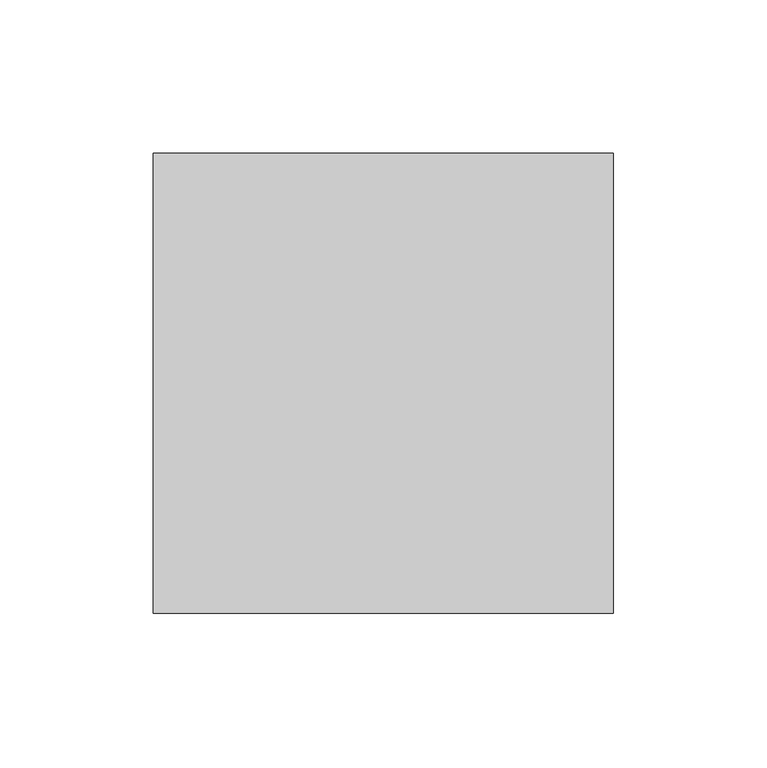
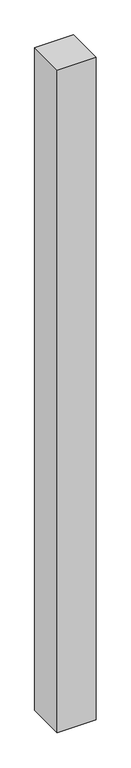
"""IFC4 building model written with IfcOpenShell, lengths in millimetres: proxy geometry, Брус : 150х150."""

from ifc_helpers import new_model, si_unit, origin, origin_with_axes, place, context, project, spatial, polyline, outline, extrude, source, transform, mapped, element, save


def generic_models_195040dd(model_context):
    return source(origin(), model_context, "Body", "SweptSolid", [
        extrude(outline(polyline([(150.0, 0.0), (0.0, 0.0), (0.0, 150.0), (150.0, 150.0), (150.0, 0.0)])), origin_with_axes(), (0.0, 0.0, 1.0), 2705.0),
    ])


if __name__ == "__main__":
    model = new_model("IFC4")
    model_context = context("Model", 3, world=origin())
    ifc_project = project(units=[si_unit("LENGTHUNIT", "METRE", prefix="MILLI")], contexts=[model_context])
    site = spatial("IfcSite", under=ifc_project)
    building = spatial("IfcBuilding", under=site)
    placement = place(None, origin())
    generic_models_shape = generic_models_195040dd(model_context)
    element("IfcBuildingElementProxy", 1, Name="Брус : 150х150", ObjectType="Брус : 150х150", at=placement, inside=building, context=model_context, shape_type="MappedRepresentation", body=[
        mapped(generic_models_shape, transform((0.0, 0.0, 0.0), x_axis=(1.0, 0.0, 0.0), y_axis=(0.0, 1.0, 0.0), z_axis=(0.0, 0.0, 1.0))),
    ])
    save(model, "model.ifc")
